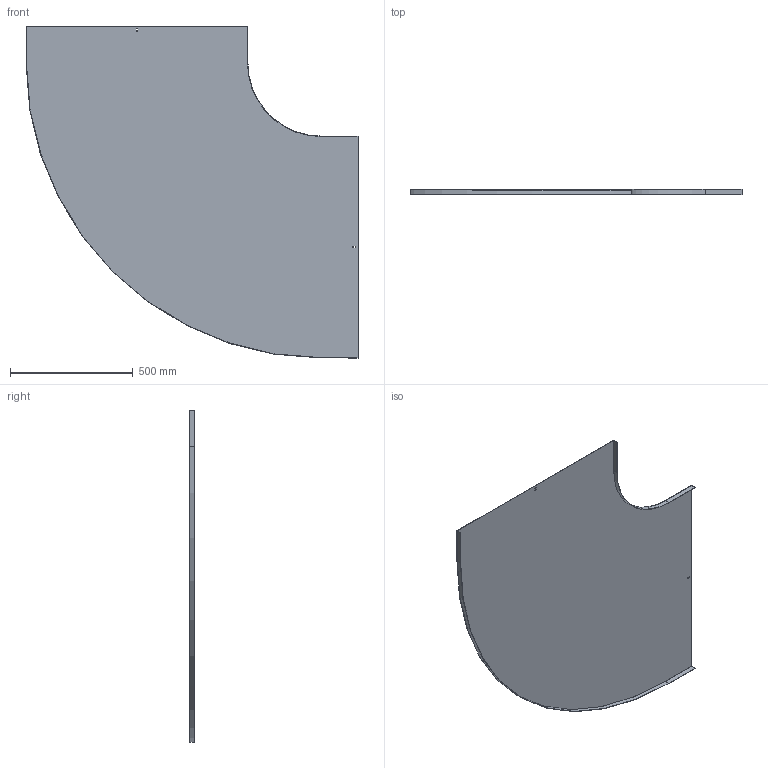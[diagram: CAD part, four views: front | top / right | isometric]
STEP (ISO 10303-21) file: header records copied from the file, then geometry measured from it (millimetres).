
FILE_DESCRIPTION (( 'STEP AP214' ), '1' );
FILE_NAME ('A2_10N3R900.step', '2025-02-21T10:54:10', ( '' ), ( '' ), 'SwSTEP 2.0', 'SolidWorks 2023', '' );
FILE_SCHEMA (( 'AUTOMOTIVE_DESIGN' ));
Length unit declared in the file: millimetre
Products named in the file (1): A2_10N3R900
Bounding box: 1351.5 x 20 x 1351.5 mm (x, y, z)
Volume: 2083941.6 mm3; surface area: 2785936.1 mm2
Topology: 1 solids, 1 shells, 26 faces, 72 edges, 48 vertices
Faces by surface type: plane 22, cylinder 4
Entity records: 855 total; most frequent: CARTESIAN_POINT 147, ORIENTED_EDGE 144, DIRECTION 134, EDGE_CURVE 72, LINE 64, VECTOR 64, VERTEX_POINT 48, AXIS2_PLACEMENT_3D 35
